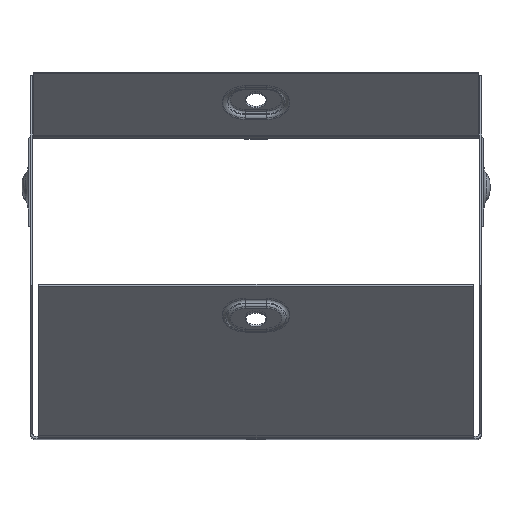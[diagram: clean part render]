
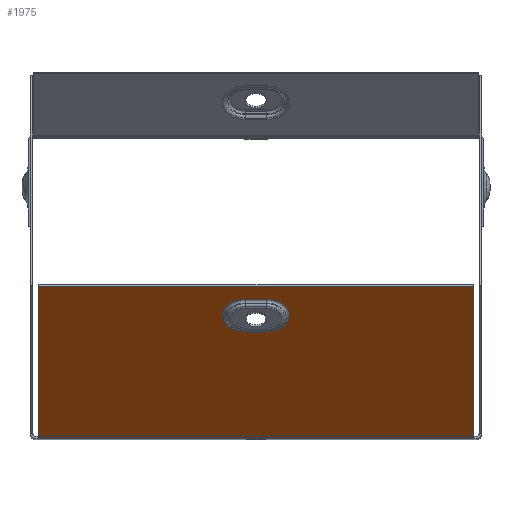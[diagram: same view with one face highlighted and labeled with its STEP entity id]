
A CAD part, top view. The second image highlights one B-rep face of the part: STEP entity #1975.
In plain terms, the highlighted planar face has unit normal (0, -0.707, 0.707).
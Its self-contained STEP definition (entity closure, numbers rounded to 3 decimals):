
#46 = CARTESIAN_POINT ( 'NONE',  ( -72.299, -100.8, 104.25 ) ) ;
#68 = CARTESIAN_POINT ( 'NONE',  ( 3.5, -54.592, 150.458 ) ) ;
#109 = DIRECTION ( 'NONE',  ( -1., 0., 0. ) ) ;
#183 = DIRECTION ( 'NONE',  ( 0., 0.707, -0.707 ) ) ;
#503 = DIRECTION ( 'NONE',  ( -1., 0., 0. ) ) ;
#579 = ORIENTED_EDGE ( 'NONE', *, *, #7756, .T. ) ;
#872 = VERTEX_POINT ( 'NONE', #13918 ) ;
#1013 = EDGE_CURVE ( 'NONE', #7314, #4466, #4591, .T. ) ;
#1240 = EDGE_CURVE ( 'NONE', #13077, #6726, #2122, .T. ) ;
#1257 = CARTESIAN_POINT ( 'NONE',  ( 73.2, -100.273, 104.777 ) ) ;
#1292 = DIRECTION ( 'NONE',  ( 0., 0.707, 0.707 ) ) ;
#1714 = VECTOR ( 'NONE', #9738, 1000. ) ;
#1724 = EDGE_CURVE ( 'NONE', #7782, #13077, #7513, .T. ) ;
#1806 = ORIENTED_EDGE ( 'NONE', *, *, #1013, .T. ) ;
#1975 = ADVANCED_FACE ( 'NONE', ( #5935, #8185 ), #6526, .F. ) ;
#2015 = EDGE_CURVE ( 'NONE', #3812, #4466, #12618, .T. ) ;
#2122 = LINE ( 'NONE', #13589, #10712 ) ;
#2491 = DIRECTION ( 'NONE',  ( 0., 0.707, -0.707 ) ) ;
#3027 = EDGE_CURVE ( 'NONE', #872, #7314, #13262, .T. ) ;
#3302 = CARTESIAN_POINT ( 'NONE',  ( -72.299, -50.065, 154.985 ) ) ;
#3310 = DIRECTION ( 'NONE',  ( 0., -0.707, -0.707 ) ) ;
#3376 = CARTESIAN_POINT ( 'NONE',  ( -3.5, -65.337, 139.713 ) ) ;
#3527 = CARTESIAN_POINT ( 'NONE',  ( 73.2, -50.065, 154.985 ) ) ;
#3681 = CARTESIAN_POINT ( 'NONE',  ( -3.5, -59.965, 145.085 ) ) ;
#3812 = VERTEX_POINT ( 'NONE', #6543 ) ;
#4466 = VERTEX_POINT ( 'NONE', #5625 ) ;
#4591 = LINE ( 'NONE', #46, #9904 ) ;
#4640 = ORIENTED_EDGE ( 'NONE', *, *, #1724, .T. ) ;
#4684 = DIRECTION ( 'NONE',  ( 0., 0.707, 0.707 ) ) ;
#5363 = AXIS2_PLACEMENT_3D ( 'NONE', #6951, #2491, #1292 ) ;
#5492 = CIRCLE ( 'NONE', #7096, 7.598 ) ;
#5625 = CARTESIAN_POINT ( 'NONE',  ( -72.299, -100.273, 104.777 ) ) ;
#5651 = DIRECTION ( 'NONE',  ( 0., 0.707, -0.707 ) ) ;
#5760 = CARTESIAN_POINT ( 'NONE',  ( -3.5, -54.592, 150.458 ) ) ;
#5935 = FACE_BOUND ( 'NONE', #11151, .T. ) ;
#6401 = VERTEX_POINT ( 'NONE', #5760 ) ;
#6417 = CARTESIAN_POINT ( 'NONE',  ( 72.299, -101.015, 104.035 ) ) ;
#6526 = PLANE ( 'NONE',  #12332 ) ;
#6543 = CARTESIAN_POINT ( 'NONE',  ( 72.299, -100.273, 104.777 ) ) ;
#6582 = CARTESIAN_POINT ( 'NONE',  ( 73.2, -100.8, 104.25 ) ) ;
#6726 = VERTEX_POINT ( 'NONE', #3376 ) ;
#6834 = DIRECTION ( 'NONE',  ( 1., 0., 0. ) ) ;
#6951 = CARTESIAN_POINT ( 'NONE',  ( 3.5, -59.965, 145.085 ) ) ;
#7096 = AXIS2_PLACEMENT_3D ( 'NONE', #3681, #5651, #4684 ) ;
#7296 = VECTOR ( 'NONE', #109, 1000. ) ;
#7314 = VERTEX_POINT ( 'NONE', #3302 ) ;
#7513 = CIRCLE ( 'NONE', #5363, 7.598 ) ;
#7735 = DIRECTION ( 'NONE',  ( -1., 0., 0. ) ) ;
#7756 = EDGE_CURVE ( 'NONE', #3812, #872, #13367, .T. ) ;
#7782 = VERTEX_POINT ( 'NONE', #68 ) ;
#8001 = EDGE_CURVE ( 'NONE', #6726, #6401, #5492, .T. ) ;
#8185 = FACE_OUTER_BOUND ( 'NONE', #14097, .T. ) ;
#8780 = DIRECTION ( 'NONE',  ( 0., 0.707, 0.707 ) ) ;
#8844 = ORIENTED_EDGE ( 'NONE', *, *, #13292, .T. ) ;
#9130 = LINE ( 'NONE', #12032, #10327 ) ;
#9738 = DIRECTION ( 'NONE',  ( 0., 0.707, 0.707 ) ) ;
#9904 = VECTOR ( 'NONE', #3310, 1000. ) ;
#10327 = VECTOR ( 'NONE', #6834, 1000. ) ;
#10503 = ORIENTED_EDGE ( 'NONE', *, *, #1240, .T. ) ;
#10585 = CARTESIAN_POINT ( 'NONE',  ( 3.5, -65.337, 139.713 ) ) ;
#10712 = VECTOR ( 'NONE', #503, 1000. ) ;
#10746 = VECTOR ( 'NONE', #7735, 1000. ) ;
#11151 = EDGE_LOOP ( 'NONE', ( #8844, #4640, #10503, #12048 ) ) ;
#11370 = ORIENTED_EDGE ( 'NONE', *, *, #3027, .T. ) ;
#12032 = CARTESIAN_POINT ( 'NONE',  ( 3.5, -54.592, 150.458 ) ) ;
#12048 = ORIENTED_EDGE ( 'NONE', *, *, #8001, .T. ) ;
#12332 = AXIS2_PLACEMENT_3D ( 'NONE', #6582, #183, #8780 ) ;
#12618 = LINE ( 'NONE', #1257, #10746 ) ;
#13077 = VERTEX_POINT ( 'NONE', #10585 ) ;
#13229 = ORIENTED_EDGE ( 'NONE', *, *, #2015, .F. ) ;
#13262 = LINE ( 'NONE', #3527, #7296 ) ;
#13292 = EDGE_CURVE ( 'NONE', #6401, #7782, #9130, .T. ) ;
#13367 = LINE ( 'NONE', #6417, #1714 ) ;
#13589 = CARTESIAN_POINT ( 'NONE',  ( 3.5, -65.337, 139.713 ) ) ;
#13918 = CARTESIAN_POINT ( 'NONE',  ( 72.299, -50.065, 154.985 ) ) ;
#14097 = EDGE_LOOP ( 'NONE', ( #1806, #13229, #579, #11370 ) ) ;
